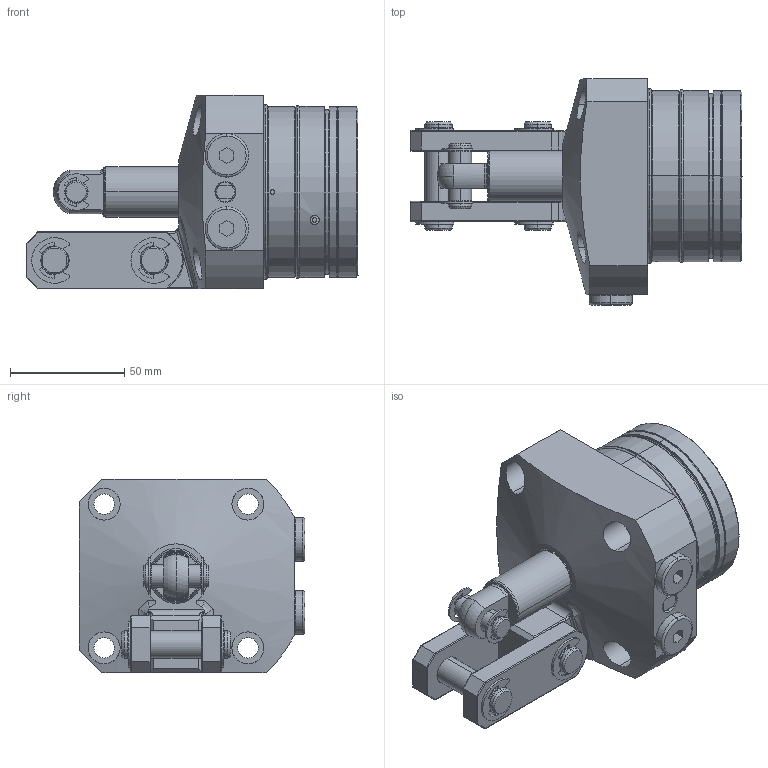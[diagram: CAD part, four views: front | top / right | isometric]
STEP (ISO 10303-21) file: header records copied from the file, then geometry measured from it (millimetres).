
FILE_DESCRIPTION(/* description */ (''),/* implementation_level */ '2;1');
FILE_NAME(/* name */ 'KTPW75-LH.stp',/* time_stamp */ '2022-11-19T16:58:59+08:00',/* author */ (''),/* organization */ (''),/* preprocessor_version */ 'ST-DEVELOPER v16.7',/* originating_system */ 'SIEMENS PLM Software NX 12.0',/* authorisation */ '');
FILE_SCHEMA (('AP203_CONFIGURATION_CONTROLLED_3D_DESIGN_OF_MECHANICAL_PARTS_AND_ASSEMBLIES_MIM_LF { 1 0 10303 403 2 1 2}'));
Length unit declared in the file: millimetre
Products named in the file (11): KTPW75-LH-06; KTPW75-LH-01; KTPW75-LH-03; KTPW75-LH-04; KTPW75-LH-02; KTPW75-LH-09; KTPW75-LH-010; KTPW75-LH-05; KTPW75-LH-07; KTPW75-LH-08; KTPC75-LH_stp
Assembly tree (19 placements, depth 2):
  KTPC75-LH_stp
    KTPW75-LH-08  x2
    KTPW75-LH-07  x4
    KTPW75-LH-05  x2
    KTPW75-LH-010  x3
    KTPW75-LH-09  x2
    KTPW75-LH-02
    KTPW75-LH-04  x2
    KTPW75-LH-03
    KTPW75-LH-01
    KTPW75-LH-06
Bounding box: 145.5 x 99 x 85 mm (x, y, z)
Volume: 471935 mm3; surface area: 82790.9 mm2
Topology: 21 solids, 21 shells, 688 faces, 1593 edges, 988 vertices
Faces by surface type: cylinder 294, plane 178, torus 128, cone 76, bspline 10, sphere 2
Full cylindrical faces by diameter (mm): 75 x1
Entity records: 14365 total; most frequent: CARTESIAN_POINT 3099, DIRECTION 2239, ORIENTED_EDGE 1902, EDGE_CURVE 951, AXIS2_PLACEMENT_3D 943, VERTEX_POINT 586, CIRCLE 510, EDGE_LOOP 479
